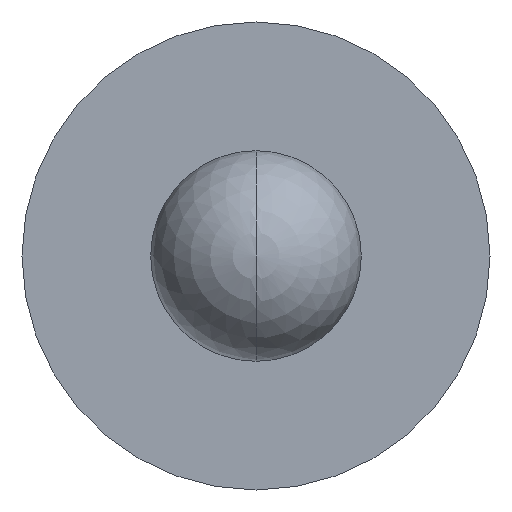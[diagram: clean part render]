
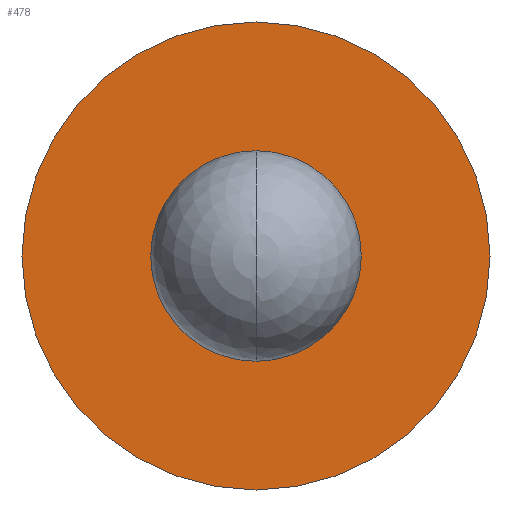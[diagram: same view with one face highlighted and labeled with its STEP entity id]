
A CAD part, front view. The second image highlights one B-rep face of the part: STEP entity #478.
In plain terms, the highlighted planar face has unit normal (0, -1, 0).
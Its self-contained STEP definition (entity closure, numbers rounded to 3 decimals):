
#133=CARTESIAN_POINT('',(0.,0.65,0.));
#134=DIRECTION('',(0.,-1.,0.));
#135=DIRECTION('',(0.,0.,-1.));
#136=AXIS2_PLACEMENT_3D('',#133,#134,#135);
#146=CARTESIAN_POINT('',(0.,0.65,0.));
#147=DIRECTION('',(0.,1.,0.));
#148=DIRECTION('',(0.,0.,-1.));
#149=AXIS2_PLACEMENT_3D('',#146,#147,#148);
#151=CARTESIAN_POINT('',(0.,0.65,0.));
#152=DIRECTION('',(0.,-1.,0.));
#153=DIRECTION('',(0.,0.,-1.));
#154=AXIS2_PLACEMENT_3D('',#151,#152,#153);
#156=CARTESIAN_POINT('',(0.,0.65,0.));
#157=DIRECTION('',(0.,1.,0.));
#158=DIRECTION('',(0.,0.,-1.));
#159=AXIS2_PLACEMENT_3D('',#156,#157,#158);
#199=CARTESIAN_POINT('',(0.,0.65,-0.45));
#200=VERTEX_POINT('',#199);
#201=CARTESIAN_POINT('',(0.,0.65,-1.));
#203=VERTEX_POINT('',#201);
#221=CARTESIAN_POINT('',(0.,0.65,0.45));
#222=VERTEX_POINT('',#221);
#223=CARTESIAN_POINT('',(0.,0.65,1.));
#225=VERTEX_POINT('',#223);
#463=CARTESIAN_POINT('',(0.,0.65,0.));
#464=DIRECTION('',(0.,-1.,0.));
#465=DIRECTION('',(0.,0.,1.));
#466=AXIS2_PLACEMENT_3D('',#463,#464,#465);
#467=PLANE('',#466);
#468=ORIENTED_EDGE('',*,*,#458,.T.);
#469=ORIENTED_EDGE('',*,*,#442,.F.);
#470=EDGE_LOOP('',(#468,#469));
#471=FACE_OUTER_BOUND('',#470,.F.);
#473=ORIENTED_EDGE('',*,*,#472,.T.);
#475=ORIENTED_EDGE('',*,*,#474,.F.);
#476=EDGE_LOOP('',(#473,#475));
#477=FACE_BOUND('',#476,.F.);
#478=ADVANCED_FACE('',(#471,#477),#467,.T.);
#137=CIRCLE('',#136,1.);
#150=CIRCLE('',#149,1.);
#155=CIRCLE('',#154,0.45);
#160=CIRCLE('',#159,0.45);
#442=EDGE_CURVE('',#203,#225,#137,.T.);
#458=EDGE_CURVE('',#203,#225,#150,.T.);
#472=EDGE_CURVE('',#200,#222,#155,.T.);
#474=EDGE_CURVE('',#200,#222,#160,.T.);
